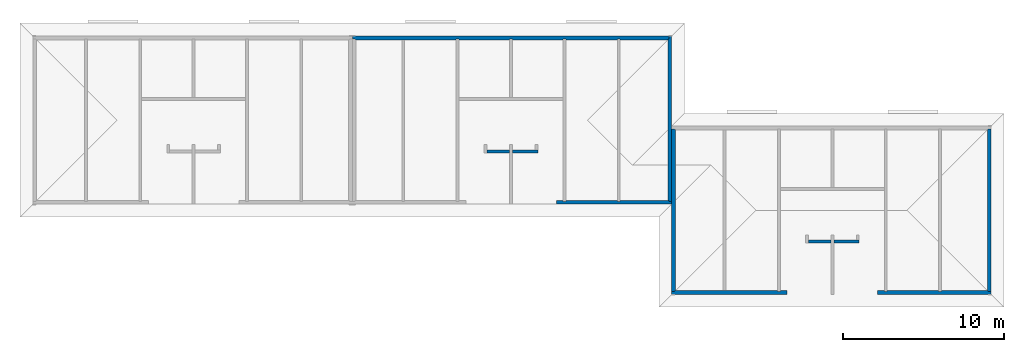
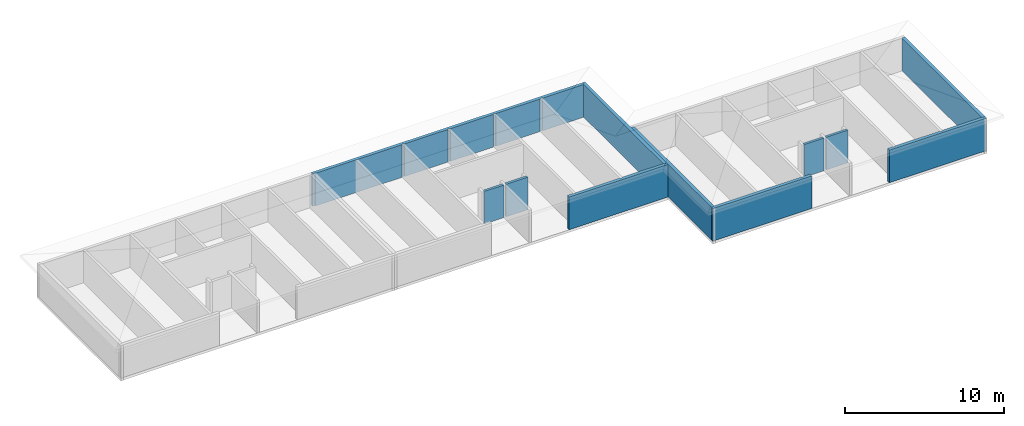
# One storey, part 9 of 10: 11 walls.
"""IFC2X3 building model written with IfcOpenShell, lengths in metres."""

import ifcopenshell
import ifcopenshell.guid

model = None  # the IFC model being written
_history = None  # IfcOwnerHistory: only IFC2X3 demands one
_inside = {}  # id of a spatial element -> (the spatial element, [elements in it])
_under = {}  # id of a project, library or spatial element -> (it, [spatial elements below it])
_declared = {}  # id of a project -> (the project, [libraries it declares])
_typed = {}  # id of a type object -> (the type object, [elements of that type])
_made_of = {}  # id of a material, layer set ... -> (it, [elements and type objects made of it])


def new_model(schema):
    """Start an empty IFC model of exactly this schema.

    Asked for "IFC4X3", IfcOpenShell would pick the latest addendum, in which some entities
    have other attributes; the version numbers below select the first issue.
    IFC2X3 requires an IfcOwnerHistory on every rooted entity: one is made here for all.
    """
    global model, _history
    if schema == "IFC4X3":
        model = ifcopenshell.file(schema_version=(4, 3, 0, 0))
    else:
        model = ifcopenshell.file(schema=schema)
    _inside.clear()
    _under.clear()
    _declared.clear()
    _typed.clear()
    _made_of.clear()
    _history = None
    if model.schema == "IFC2X3":
        org = make("IfcOrganization", Name="unknown")
        user = make(
            "IfcPersonAndOrganization",
            ThePerson=make("IfcPerson", FamilyName="unknown"),
            TheOrganization=org,
        )
        app = make(
            "IfcApplication",
            ApplicationDeveloper=org,
            Version="unknown",
            ApplicationFullName="unknown",
            ApplicationIdentifier="unknown",
        )
        _history = make(
            "IfcOwnerHistory",
            OwningUser=user,
            OwningApplication=app,
            ChangeAction="ADDED",
            CreationDate=0,
        )
    return model


def make(cls, **values):
    """One entity of the class cls with the attributes given. An attribute that is None is left unset."""
    return model.create_entity(
        cls, **{name: value for name, value in values.items() if value is not None}
    )


def rooted(cls, **values):
    """An entity with a GlobalId (a new one), such as an element, a storey or a relation."""
    return make(cls, GlobalId=ifcopenshell.guid.new(), OwnerHistory=_history, **values)


def si_unit(unit_type, name, prefix=None):
    """IfcSIUnit, for example si_unit("LENGTHUNIT", "METRE", prefix="MILLI")."""
    return make("IfcSIUnit", UnitType=unit_type, Prefix=prefix, Name=name)


def assignment(units):
    """IfcUnitAssignment: the units of a project."""
    return None if units is None else make("IfcUnitAssignment", Units=units)


def point(xyz):
    """IfcCartesianPoint."""
    return None if xyz is None else make("IfcCartesianPoint", Coordinates=xyz)


def direction(xyz):
    """IfcDirection."""
    return None if xyz is None else make("IfcDirection", DirectionRatios=xyz)


def frame(location, z_axis=None, x_axis=None):
    """IfcAxis2Placement3D, a coordinate frame: its origin and axes. An axis left out is left unset."""
    return make(
        "IfcAxis2Placement3D",
        Location=point(location),
        Axis=direction(z_axis),
        RefDirection=direction(x_axis),
    )


def origin():
    """The frame at (0, 0, 0) with its axes left unset."""
    return frame((0.0, 0.0, 0.0))


def place(relative_to, where):
    """IfcLocalPlacement: puts the frame where relative to a parent placement (None: the world)."""
    return make(
        "IfcLocalPlacement", PlacementRelTo=relative_to, RelativePlacement=where
    )


def context(
    kind, dimensions, precision=None, world=None, true_north=None, identifier=None
):
    """IfcGeometricRepresentationContext, for example the 3D "Model" context."""
    return make(
        "IfcGeometricRepresentationContext",
        ContextIdentifier=identifier,
        ContextType=kind,
        CoordinateSpaceDimension=dimensions,
        Precision=precision,
        WorldCoordinateSystem=world,
        TrueNorth=true_north,
    )


def project(units=None, contexts=None):
    """IfcProject with its units and contexts."""
    return rooted(
        "IfcProject",
        Name="project",
        RepresentationContexts=contexts,
        UnitsInContext=assignment(units),
    )


def spatial(cls, under=None, at=None, **own):
    """A site, building, storey or space (cls), placed at a placement, below another one or the project."""
    s = rooted(cls, ObjectPlacement=at, **own)
    if under is not None:
        _under.setdefault(under.id(), (under, []))[1].append(s)
    return s


def faces_of(points, faces, orient=None, outer=None):
    """IfcFace entities. A face is a list of loops; a loop is a list of indices into points, from 0.

    orient and outer hold one flag for each loop. By default every Orientation is true, the
    first loop of a face is its IfcFaceOuterBound and the others are IfcFaceBound.
    """
    made = []
    for i, loops in enumerate(faces):
        bounds = []
        for j, loop in enumerate(loops):
            is_outer = j == 0 if outer is None else outer[i][j]
            bounds.append(
                make(
                    "IfcFaceOuterBound" if is_outer else "IfcFaceBound",
                    Bound=make("IfcPolyLoop", Polygon=[points[k] for k in loop]),
                    Orientation=True if orient is None else orient[i][j],
                )
            )
        made.append(make("IfcFace", Bounds=bounds))
    return made


def faceted_brep(points, faces, orient=None, outer=None, voids=None):
    """IfcFacetedBrep: a solid bounded by flat faces; with voids (closed shells), ...WithVoids."""
    shared = [point(p) for p in points]
    hull = make("IfcClosedShell", CfsFaces=faces_of(shared, faces, orient, outer))
    if voids is None:
        return make("IfcFacetedBrep", Outer=hull)
    return make(
        "IfcFacetedBrepWithVoids",
        Outer=hull,
        Voids=[
            make(cls, CfsFaces=faces_of(shared, fs, o, b)) for cls, fs, o, b in voids
        ],
    )


def shape(context_of_items, identifier, shape_type, items):
    """IfcShapeRepresentation: the items that make up one representation, for example the "Body"."""
    return make(
        "IfcShapeRepresentation",
        ContextOfItems=context_of_items,
        RepresentationIdentifier=identifier,
        RepresentationType=shape_type,
        Items=items,
    )


def made_of(thing, what):
    """Note that an element or type object is made of a material, layer set ...; save() writes the relation."""
    if what is not None:
        _made_of.setdefault(what.id(), (what, []))[1].append(thing)
    return thing


def element(
    cls,
    number,
    at=None,
    inside=None,
    cuts=None,
    type_object=None,
    material=None,
    context=None,
    identifier="Body",
    shape_type=None,
    held_by="IfcProductDefinitionShape",
    body=None,
    shapes=None,
    **own,
):
    """One element of the class cls, such as IfcWall. Its Tag is "e" and its number.

    at: its placement. inside: the storey or other place that contains it. cuts: it is an
    opening in that element (IfcRelVoidsElement). A single representation is given by context,
    identifier, shape_type and body (its items); several are given by shapes. held_by: the class
    of the entity that holds the representations. save() writes the other relations.
    """
    e = rooted(cls, Tag="e%d" % number, ObjectPlacement=at, **own)
    if body is not None:
        shapes = [shape(context, identifier, shape_type, body)]
    if shapes is not None:
        e.Representation = make(held_by, Representations=shapes)
    if inside is not None:
        _inside.setdefault(inside.id(), (inside, []))[1].append(e)
    if cuts is not None:
        rooted(
            "IfcRelVoidsElement", RelatingBuildingElement=cuts, RelatedOpeningElement=e
        )
    if type_object is not None:
        _typed.setdefault(type_object.id(), (type_object, []))[1].append(e)
    return made_of(e, material)


def aggregate(whole, parts):
    """IfcRelAggregates: a whole, such as a stair, and the parts it consists of."""
    return rooted("IfcRelAggregates", RelatingObject=whole, RelatedObjects=parts)


def save(model, path):
    """Write the relations noted so far, then the file.

    IfcRelAggregates (storeys below a building ...), IfcRelContainedInSpatialStructure (elements
    in a storey), IfcRelDefinesByType, IfcRelAssociatesMaterial and IfcRelDeclares: one each for
    every whole, place, type object, material and project.
    """
    for whole, parts in _under.values():
        aggregate(whole, parts)
    for where, things in _inside.values():
        rooted(
            "IfcRelContainedInSpatialStructure",
            RelatedElements=things,
            RelatingStructure=where,
        )
    for kind, things in _typed.values():
        rooted("IfcRelDefinesByType", RelatedObjects=things, RelatingType=kind)
    for what, things in _made_of.values():
        rooted("IfcRelAssociatesMaterial", RelatedObjects=things, RelatingMaterial=what)
    for by, libraries in _declared.values():
        rooted("IfcRelDeclares", RelatingContext=by, RelatedDefinitions=libraries)
    model.write(path)


model = new_model("IFC2X3")

# Units and contexts
model_context = context("Model", 3, precision=1e-06, world=origin())
ifc_project = project(units=[si_unit("LENGTHUNIT", "METRE"), si_unit("PLANEANGLEUNIT", "RADIAN")], contexts=[model_context])

# Site, building, storey
site = spatial("IfcSite", under=ifc_project, CompositionType="ELEMENT")
building = spatial("IfcBuilding", under=site, CompositionType="ELEMENT")
storey = spatial("IfcBuildingStorey", under=building, Name="r+3", CompositionType="ELEMENT", Elevation=8.1)

# Walls
placement = place(None, origin())
wall_1_placement = place(placement, frame((39.69999999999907, 4.690077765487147, 8.1), z_axis=(0.0, 0.0, 1.0), x_axis=(0.0, -1.0, 0.0)))
element("IfcWall", 1, at=wall_1_placement, inside=storey, context=model_context, shape_type="Brep", body=[
    faceted_brep([(10.04000021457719, 0.23, 2.5), (10.04000021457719, 0.22, 2.5), (10.04000021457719, 0.22, 0.0), (10.04000021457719, 0.23, 0.0), (10.04000021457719, 0.22, 2.5), (10.05000021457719, 0.22, 2.5), (10.05000021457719, 0.22, 0.0), (10.04000021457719, 0.22, 0.0), (10.05000021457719, 0.22, 2.5), (10.05000021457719, 0.18, 2.5), (10.05000021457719, 0.18, 0.0), (10.05000021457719, 0.22, 0.0), (10.05000021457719, 0.18, 2.5), (10.090000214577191, 0.18, 2.5), (10.090000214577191, 0.18, 0.0), (10.05000021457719, 0.18, 0.0), (10.090000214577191, 0.18, 2.5), (10.090000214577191, 0.0, 2.5), (10.090000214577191, 0.0, 0.0), (10.090000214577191, 0.18, 0.0), (10.090000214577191, 0.0, 2.5), (0.0, 0.0, 2.5), (0.0, 0.0, 0.0), (10.090000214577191, 0.0, 0.0), (0.0, 0.0, 2.5), (0.0, 0.18, 2.5), (0.0, 0.18, 0.0), (0.0, 0.0, 0.0), (0.0, 0.18, 2.5), (0.04, 0.18, 2.5), (0.04, 0.18, 0.0), (0.0, 0.18, 0.0), (0.04, 0.18, 2.5), (0.04, 0.23, 2.5), (0.04, 0.23, 0.0), (0.04, 0.18, 0.0), (0.04, 0.23, 2.5), (10.04000021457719, 0.23, 2.5), (10.04000021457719, 0.23, 0.0), (0.04, 0.23, 0.0), (10.04000021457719, 0.23, 2.5), (0.04, 0.23, 2.5), (0.04, 0.18, 2.5), (0.0, 0.18, 2.5), (0.0, 0.0, 2.5), (10.090000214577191, 0.0, 2.5), (10.090000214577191, 0.18, 2.5), (10.05000021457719, 0.18, 2.5), (10.05000021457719, 0.22, 2.5), (10.04000021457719, 0.22, 2.5), (10.04000021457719, 0.23, 0.0), (10.04000021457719, 0.22, 0.0), (10.05000021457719, 0.22, 0.0), (10.05000021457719, 0.18, 0.0), (10.090000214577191, 0.18, 0.0), (10.090000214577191, 0.0, 0.0), (0.0, 0.0, 0.0), (0.0, 0.18, 0.0), (0.04, 0.18, 0.0), (0.04, 0.23, 0.0)], [[[0, 1, 2, 3]], [[4, 5, 6, 7]], [[8, 9, 10, 11]], [[12, 13, 14, 15]], [[16, 17, 18, 19]], [[20, 21, 22, 23]], [[24, 25, 26, 27]], [[28, 29, 30, 31]], [[32, 33, 34, 35]], [[36, 37, 38, 39]], [[40, 41, 42, 43, 44, 45, 46, 47, 48, 49]], [[50, 51, 52, 53, 54, 55, 56, 57, 58, 59]]]),
])
wall_2_placement = place(placement, frame((39.51999999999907, 10.470077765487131, 8.1), z_axis=(0.0, 0.0, 1.0), x_axis=(-1.0, 0.0, 0.0)))
element("IfcWall", 2, at=wall_2_placement, inside=storey, context=model_context, shape_type="Brep", body=[
    faceted_brep([(3.019999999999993, 0.18, 2.5), (3.199999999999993, 0.18, 2.5), (3.199999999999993, 0.18, 0.0), (3.019999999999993, 0.18, 0.0), (3.199999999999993, 0.18, 2.5), (3.199999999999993, 0.23, 2.5), (3.199999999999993, 0.23, 0.0), (3.199999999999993, 0.18, 0.0), (3.199999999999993, 0.23, 2.5), (6.4, 0.230000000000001, 2.5), (6.4, 0.230000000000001, 0.0), (3.199999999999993, 0.23, 0.0), (6.4, 0.230000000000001, 2.5), (6.4, 0.180000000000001, 2.5), (6.4, 0.180000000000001, 0.0), (6.4, 0.230000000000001, 0.0), (6.4, 0.180000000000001, 2.5), (6.58, 0.180000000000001, 2.5), (6.58, 0.180000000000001, 0.0), (6.4, 0.180000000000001, 0.0), (6.58, 0.180000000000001, 2.5), (6.58, 0.230000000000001, 2.5), (6.58, 0.230000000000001, 0.0), (6.58, 0.180000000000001, 0.0), (6.58, 0.230000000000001, 2.5), (9.714999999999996, 0.230000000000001, 2.5), (9.714999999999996, 0.230000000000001, 0.0), (6.58, 0.230000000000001, 0.0), (9.714999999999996, 0.230000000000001, 2.5), (9.714999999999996, 0.180000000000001, 2.5), (9.714999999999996, 0.180000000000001, 0.0), (9.714999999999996, 0.230000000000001, 0.0), (9.714999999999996, 0.180000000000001, 2.5), (9.894999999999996, 0.180000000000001, 2.5), (9.894999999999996, 0.180000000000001, 0.0), (9.714999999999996, 0.180000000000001, 0.0), (9.894999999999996, 0.180000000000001, 2.5), (9.894999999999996, 0.230000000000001, 2.5), (9.894999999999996, 0.230000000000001, 0.0), (9.894999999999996, 0.180000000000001, 0.0), (9.894999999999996, 0.230000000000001, 2.5), (13.029999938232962, 0.230000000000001, 2.5), (13.029999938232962, 0.230000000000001, 0.0), (9.894999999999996, 0.230000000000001, 0.0), (13.029999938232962, 0.230000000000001, 2.5), (13.029999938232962, 0.180000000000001, 2.5), (13.029999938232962, 0.180000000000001, 0.0), (13.029999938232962, 0.230000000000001, 0.0), (13.029999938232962, 0.180000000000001, 2.5), (13.209999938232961, 0.179999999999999, 2.5), (13.209999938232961, 0.179999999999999, 0.0), (13.029999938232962, 0.180000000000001, 0.0), (13.209999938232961, 0.179999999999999, 2.5), (13.209999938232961, 0.230000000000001, 2.5), (13.209999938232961, 0.230000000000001, 0.0), (13.209999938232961, 0.179999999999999, 0.0), (13.209999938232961, 0.230000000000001, 2.5), (19.44999999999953, 0.23, 2.5), (19.44999999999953, 0.23, 0.0), (13.209999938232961, 0.230000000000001, 0.0), (19.44999999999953, 0.23, 2.5), (19.44999999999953, 0.22, 2.5), (19.44999999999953, 0.22, 0.0), (19.44999999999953, 0.23, 0.0), (19.44999999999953, 0.22, 2.5), (19.48999999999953, 0.22, 2.5), (19.48999999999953, 0.22, 0.0), (19.44999999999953, 0.22, 0.0), (19.48999999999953, 0.22, 2.5), (19.48999999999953, 0.18, 2.5), (19.48999999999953, 0.18, 0.0), (19.48999999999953, 0.22, 0.0), (19.48999999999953, 0.18, 2.5), (19.669999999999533, 0.18, 2.5), (19.669999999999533, 0.18, 0.0), (19.48999999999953, 0.18, 0.0), (19.669999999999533, 0.18, 2.5), (19.669999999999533, 0.0, 2.5), (19.669999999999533, 0.0, 0.0), (19.669999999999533, 0.18, 0.0), (19.669999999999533, 0.0, 2.5), (0.0, 0.0, 2.5), (0.0, 0.0, 0.0), (19.669999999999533, 0.0, 0.0), (0.0, 0.0, 2.5), (0.0, 0.18, 2.5), (0.0, 0.18, 0.0), (0.0, 0.0, 0.0), (0.0, 0.18, 2.5), (0.04, 0.18, 2.5), (0.04, 0.18, 0.0), (0.0, 0.18, 0.0), (0.04, 0.18, 2.5), (0.04, 0.22, 2.5), (0.04, 0.22, 0.0), (0.04, 0.18, 0.0), (0.04, 0.22, 2.5), (0.05, 0.22, 2.5), (0.05, 0.22, 0.0), (0.04, 0.22, 0.0), (0.05, 0.22, 2.5), (0.05, 0.23, 2.5), (0.05, 0.23, 0.0), (0.05, 0.22, 0.0), (0.05, 0.23, 2.5), (3.019999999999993, 0.23, 2.5), (3.019999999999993, 0.23, 0.0), (0.05, 0.23, 0.0), (3.019999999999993, 0.23, 2.5), (3.019999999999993, 0.18, 2.5), (3.019999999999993, 0.18, 0.0), (3.019999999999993, 0.23, 0.0), (3.019999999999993, 0.18, 2.5), (3.019999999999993, 0.23, 2.5), (0.05, 0.23, 2.5), (0.05, 0.22, 2.5), (0.04, 0.22, 2.5), (0.04, 0.18, 2.5), (0.0, 0.18, 2.5), (0.0, 0.0, 2.5), (19.669999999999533, 0.0, 2.5), (19.669999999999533, 0.18, 2.5), (19.48999999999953, 0.18, 2.5), (19.48999999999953, 0.22, 2.5), (19.44999999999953, 0.22, 2.5), (19.44999999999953, 0.23, 2.5), (13.209999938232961, 0.230000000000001, 2.5), (13.209999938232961, 0.179999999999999, 2.5), (13.029999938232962, 0.180000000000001, 2.5), (13.029999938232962, 0.230000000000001, 2.5), (9.894999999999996, 0.230000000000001, 2.5), (9.894999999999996, 0.180000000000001, 2.5), (9.714999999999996, 0.180000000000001, 2.5), (9.714999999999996, 0.230000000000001, 2.5), (6.58, 0.230000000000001, 2.5), (6.58, 0.180000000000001, 2.5), (6.4, 0.180000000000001, 2.5), (6.4, 0.230000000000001, 2.5), (3.199999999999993, 0.23, 2.5), (3.199999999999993, 0.18, 2.5), (3.019999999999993, 0.18, 0.0), (3.199999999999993, 0.18, 0.0), (3.199999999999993, 0.23, 0.0), (6.4, 0.230000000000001, 0.0), (6.4, 0.180000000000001, 0.0), (6.58, 0.180000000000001, 0.0), (6.58, 0.230000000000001, 0.0), (9.714999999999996, 0.230000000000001, 0.0), (9.714999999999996, 0.180000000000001, 0.0), (9.894999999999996, 0.180000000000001, 0.0), (9.894999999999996, 0.230000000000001, 0.0), (13.029999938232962, 0.230000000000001, 0.0), (13.029999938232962, 0.180000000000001, 0.0), (13.209999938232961, 0.179999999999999, 0.0), (13.209999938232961, 0.230000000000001, 0.0), (19.44999999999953, 0.23, 0.0), (19.44999999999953, 0.22, 0.0), (19.48999999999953, 0.22, 0.0), (19.48999999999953, 0.18, 0.0), (19.669999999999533, 0.18, 0.0), (19.669999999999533, 0.0, 0.0), (0.0, 0.0, 0.0), (0.0, 0.18, 0.0), (0.04, 0.18, 0.0), (0.04, 0.22, 0.0), (0.05, 0.22, 0.0), (0.05, 0.23, 0.0), (3.019999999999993, 0.23, 0.0)], [[[0, 1, 2, 3]], [[4, 5, 6, 7]], [[8, 9, 10, 11]], [[12, 13, 14, 15]], [[16, 17, 18, 19]], [[20, 21, 22, 23]], [[24, 25, 26, 27]], [[28, 29, 30, 31]], [[32, 33, 34, 35]], [[36, 37, 38, 39]], [[40, 41, 42, 43]], [[44, 45, 46, 47]], [[48, 49, 50, 51]], [[52, 53, 54, 55]], [[56, 57, 58, 59]], [[60, 61, 62, 63]], [[64, 65, 66, 67]], [[68, 69, 70, 71]], [[72, 73, 74, 75]], [[76, 77, 78, 79]], [[80, 81, 82, 83]], [[84, 85, 86, 87]], [[88, 89, 90, 91]], [[92, 93, 94, 95]], [[96, 97, 98, 99]], [[100, 101, 102, 103]], [[104, 105, 106, 107]], [[108, 109, 110, 111]], [[112, 113, 114, 115, 116, 117, 118, 119, 120, 121, 122, 123, 124, 125, 126, 127, 128, 129, 130, 131, 132, 133, 134, 135, 136, 137, 138, 139]], [[140, 141, 142, 143, 144, 145, 146, 147, 148, 149, 150, 151, 152, 153, 154, 155, 156, 157, 158, 159, 160, 161, 162, 163, 164, 165, 166, 167]]]),
])
wall_3_placement = place(placement, frame((51.3499994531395, -2.199922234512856, 8.1), z_axis=(0.0, 0.0, 1.0), x_axis=(-1.0, 0.0, 0.0)))
element("IfcWall", 3, at=wall_3_placement, inside=storey, context=model_context, shape_type="Brep", body=[
    faceted_brep([(1.574999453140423, 0.18, 2.5), (1.574999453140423, 0.0, 2.5), (1.574999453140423, 0.0, 0.0), (1.574999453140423, 0.18, 0.0), (1.574999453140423, 0.0, 2.5), (0.0, 0.0, 2.5), (0.0, 0.0, 0.0), (1.574999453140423, 0.0, 0.0), (0.0, 0.0, 2.5), (0.0, 0.18, 2.5), (0.0, 0.18, 0.0), (0.0, 0.0, 0.0), (0.0, 0.18, 2.5), (1.574999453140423, 0.18, 2.5), (1.574999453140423, 0.18, 0.0), (0.0, 0.18, 0.0), (1.574999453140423, 0.18, 2.5), (0.0, 0.18, 2.5), (0.0, 0.0, 2.5), (1.574999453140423, 0.0, 2.5), (1.574999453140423, 0.18, 0.0), (1.574999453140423, 0.0, 0.0), (0.0, 0.0, 0.0), (0.0, 0.18, 0.0)], [[[0, 1, 2, 3]], [[4, 5, 6, 7]], [[8, 9, 10, 11]], [[12, 13, 14, 15]], [[16, 17, 18, 19]], [[20, 21, 22, 23]]]),
])
wall_4_placement = place(placement, frame((39.69999999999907, -5.579922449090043, 8.1), z_axis=(0.0, 0.0, 1.0), x_axis=(1.0, 0.0, 0.0)))
element("IfcWall", 4, at=wall_4_placement, inside=storey, context=model_context, shape_type="Brep", body=[
    faceted_brep([(7.175000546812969, 0.0, 2.5), (0.0, 0.0, 2.5), (0.0, 0.0, 0.0), (7.175000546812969, 0.0, 0.0), (0.0, 0.0, 2.5), (0.0, 0.18, 2.5), (0.0, 0.18, 0.0), (0.0, 0.0, 0.0), (0.0, 0.18, 2.5), (0.18, 0.18, 2.5), (0.18, 0.18, 0.0), (0.0, 0.18, 0.0), (0.18, 0.18, 2.5), (0.18, 0.22, 2.5), (0.18, 0.22, 0.0), (0.18, 0.18, 0.0), (0.18, 0.22, 2.5), (0.22, 0.22, 2.5), (0.22, 0.22, 0.0), (0.18, 0.22, 0.0), (0.22, 0.22, 2.5), (0.22, 0.23, 2.5), (0.22, 0.23, 0.0), (0.22, 0.22, 0.0), (0.22, 0.23, 2.5), (6.580000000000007, 0.23, 2.5), (6.580000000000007, 0.23, 0.0), (0.22, 0.23, 0.0), (6.580000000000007, 0.23, 2.5), (6.580000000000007, 0.18, 2.5), (6.580000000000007, 0.18, 0.0), (6.580000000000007, 0.23, 0.0), (6.580000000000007, 0.18, 2.5), (6.760000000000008, 0.18, 2.5), (6.760000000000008, 0.18, 0.0), (6.580000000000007, 0.18, 0.0), (6.760000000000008, 0.18, 2.5), (6.760000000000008, 0.23, 2.5), (6.760000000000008, 0.23, 0.0), (6.760000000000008, 0.18, 0.0), (6.760000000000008, 0.23, 2.5), (7.175000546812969, 0.23, 2.5), (7.175000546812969, 0.23, 0.0), (6.760000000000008, 0.23, 0.0), (7.175000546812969, 0.23, 2.5), (7.175000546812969, 0.0, 2.5), (7.175000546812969, 0.0, 0.0), (7.175000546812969, 0.23, 0.0), (7.175000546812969, 0.0, 2.5), (7.175000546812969, 0.23, 2.5), (6.760000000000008, 0.23, 2.5), (6.760000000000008, 0.18, 2.5), (6.580000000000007, 0.18, 2.5), (6.580000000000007, 0.23, 2.5), (0.22, 0.23, 2.5), (0.22, 0.22, 2.5), (0.18, 0.22, 2.5), (0.18, 0.18, 2.5), (0.0, 0.18, 2.5), (0.0, 0.0, 2.5), (7.175000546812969, 0.0, 0.0), (0.0, 0.0, 0.0), (0.0, 0.18, 0.0), (0.18, 0.18, 0.0), (0.18, 0.22, 0.0), (0.22, 0.22, 0.0), (0.22, 0.23, 0.0), (6.580000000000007, 0.23, 0.0), (6.580000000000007, 0.18, 0.0), (6.760000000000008, 0.18, 0.0), (6.760000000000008, 0.23, 0.0), (7.175000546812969, 0.23, 0.0)], [[[0, 1, 2, 3]], [[4, 5, 6, 7]], [[8, 9, 10, 11]], [[12, 13, 14, 15]], [[16, 17, 18, 19]], [[20, 21, 22, 23]], [[24, 25, 26, 27]], [[28, 29, 30, 31]], [[32, 33, 34, 35]], [[36, 37, 38, 39]], [[40, 41, 42, 43]], [[44, 45, 46, 47]], [[48, 49, 50, 51, 52, 53, 54, 55, 56, 57, 58, 59]], [[60, 61, 62, 63, 64, 65, 66, 67, 68, 69, 70, 71]]]),
])
wall_5_placement = place(placement, frame((31.37999951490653, 3.400077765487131, 8.1), z_axis=(0.0, 0.0, 1.0), x_axis=(-1.0, 0.0, 0.0)))
element("IfcWall", 5, at=wall_5_placement, inside=storey, context=model_context, shape_type="Brep", body=[
    faceted_brep([(3.150000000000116, 0.18, 2.5), (3.150000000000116, 0.0, 2.5), (3.150000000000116, 0.0, 0.0), (3.150000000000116, 0.18, 0.0), (3.150000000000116, 0.0, 2.5), (1.754999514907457, 0.0, 2.5), (1.754999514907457, 0.0, 0.0), (3.150000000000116, 0.0, 0.0), (1.754999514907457, 0.0, 2.5), (1.754999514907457, 0.18, 2.5), (1.754999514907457, 0.18, 0.0), (1.754999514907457, 0.0, 0.0), (1.754999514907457, 0.18, 2.5), (3.150000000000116, 0.18, 2.5), (3.150000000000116, 0.18, 0.0), (1.754999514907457, 0.18, 0.0), (3.150000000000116, 0.18, 2.5), (1.754999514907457, 0.18, 2.5), (1.754999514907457, 0.0, 2.5), (3.150000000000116, 0.0, 2.5), (3.150000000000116, 0.18, 0.0), (3.150000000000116, 0.0, 0.0), (1.754999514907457, 0.0, 0.0), (1.754999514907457, 0.18, 0.0)], [[[0, 1, 2, 3]], [[4, 5, 6, 7]], [[8, 9, 10, 11]], [[12, 13, 14, 15]], [[16, 17, 18, 19]], [[20, 21, 22, 23]]]),
])
wall_6_placement = place(placement, frame((32.525000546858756, 0.020077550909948, 8.099999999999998), z_axis=(0.0, 0.0, 1.0), x_axis=(1.0, 0.0, 0.0)))
element("IfcWall", 6, at=wall_6_placement, inside=storey, context=model_context, shape_type="Brep", body=[
    faceted_brep([(0.41499945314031, 0.23, 2.500000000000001), (0.41499945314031, 0.18, 2.500000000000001), (0.41499945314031, 0.18, 0.0), (0.41499945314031, 0.23, 0.0), (0.41499945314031, 0.18, 2.500000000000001), (0.59499945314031, 0.18, 2.500000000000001), (0.59499945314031, 0.18, 0.0), (0.41499945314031, 0.18, 0.0), (0.59499945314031, 0.18, 2.500000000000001), (0.59499945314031, 0.23, 2.500000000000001), (0.59499945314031, 0.23, 0.0), (0.59499945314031, 0.18, 0.0), (0.59499945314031, 0.23, 2.500000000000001), (3.794999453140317, 0.23, 2.500000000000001), (3.794999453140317, 0.23, 0.0), (0.59499945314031, 0.23, 0.0), (3.794999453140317, 0.23, 2.500000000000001), (3.794999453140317, 0.18, 2.500000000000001), (3.794999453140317, 0.18, 0.0), (3.794999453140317, 0.23, 0.0), (3.794999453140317, 0.18, 2.500000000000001), (3.974999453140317, 0.18, 2.500000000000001), (3.974999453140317, 0.18, 0.0), (3.794999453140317, 0.18, 0.0), (3.974999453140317, 0.18, 2.500000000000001), (3.974999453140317, 0.23, 2.500000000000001), (3.974999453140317, 0.23, 0.0), (3.974999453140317, 0.18, 0.0), (3.974999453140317, 0.23, 2.500000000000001), (6.95499945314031, 0.23, 2.500000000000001), (6.95499945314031, 0.23, 0.0), (3.974999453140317, 0.23, 0.0), (6.95499945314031, 0.23, 2.500000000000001), (6.95499945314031, 0.22, 2.500000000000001), (6.95499945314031, 0.22, 0.0), (6.95499945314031, 0.23, 0.0), (6.95499945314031, 0.22, 2.500000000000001), (6.99499945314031, 0.22, 2.500000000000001), (6.99499945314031, 0.22, 0.0), (6.95499945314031, 0.22, 0.0), (6.99499945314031, 0.22, 2.500000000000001), (6.99499945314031, 0.18, 2.500000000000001), (6.99499945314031, 0.18, 0.0), (6.99499945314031, 0.22, 0.0), (6.99499945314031, 0.18, 2.500000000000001), (7.17499945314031, 0.18, 2.500000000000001), (7.17499945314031, 0.18, 0.0), (6.99499945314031, 0.18, 0.0), (7.17499945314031, 0.18, 2.500000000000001), (7.17499945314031, 0.0, 2.500000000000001), (7.17499945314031, 0.0, 0.0), (7.17499945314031, 0.18, 0.0), (7.17499945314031, 0.0, 2.500000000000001), (0.0, 0.0, 2.500000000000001), (0.0, 0.0, 0.0), (7.17499945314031, 0.0, 0.0), (0.0, 0.0, 2.500000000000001), (0.0, 0.23, 2.500000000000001), (0.0, 0.23, 0.0), (0.0, 0.0, 0.0), (0.0, 0.23, 2.500000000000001), (0.41499945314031, 0.23, 2.500000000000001), (0.41499945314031, 0.23, 0.0), (0.0, 0.23, 0.0), (0.41499945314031, 0.23, 2.500000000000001), (0.0, 0.23, 2.500000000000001), (0.0, 0.0, 2.500000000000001), (7.17499945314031, 0.0, 2.500000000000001), (7.17499945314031, 0.18, 2.500000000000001), (6.99499945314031, 0.18, 2.500000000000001), (6.99499945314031, 0.22, 2.500000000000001), (6.95499945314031, 0.22, 2.500000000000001), (6.95499945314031, 0.23, 2.500000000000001), (3.974999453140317, 0.23, 2.500000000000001), (3.974999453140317, 0.18, 2.500000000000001), (3.794999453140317, 0.18, 2.500000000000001), (3.794999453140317, 0.23, 2.500000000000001), (0.59499945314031, 0.23, 2.500000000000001), (0.59499945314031, 0.18, 2.500000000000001), (0.41499945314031, 0.18, 2.500000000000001), (0.41499945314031, 0.23, 0.0), (0.41499945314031, 0.18, 0.0), (0.59499945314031, 0.18, 0.0), (0.59499945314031, 0.23, 0.0), (3.794999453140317, 0.23, 0.0), (3.794999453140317, 0.18, 0.0), (3.974999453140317, 0.18, 0.0), (3.974999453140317, 0.23, 0.0), (6.95499945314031, 0.23, 0.0), (6.95499945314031, 0.22, 0.0), (6.99499945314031, 0.22, 0.0), (6.99499945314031, 0.18, 0.0), (7.17499945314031, 0.18, 0.0), (7.17499945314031, 0.0, 0.0), (0.0, 0.0, 0.0), (0.0, 0.23, 0.0)], [[[0, 1, 2, 3]], [[4, 5, 6, 7]], [[8, 9, 10, 11]], [[12, 13, 14, 15]], [[16, 17, 18, 19]], [[20, 21, 22, 23]], [[24, 25, 26, 27]], [[28, 29, 30, 31]], [[32, 33, 34, 35]], [[36, 37, 38, 39]], [[40, 41, 42, 43]], [[44, 45, 46, 47]], [[48, 49, 50, 51]], [[52, 53, 54, 55]], [[56, 57, 58, 59]], [[60, 61, 62, 63]], [[64, 65, 66, 67, 68, 69, 70, 71, 72, 73, 74, 75, 76, 77, 78, 79]], [[80, 81, 82, 83, 84, 85, 86, 87, 88, 89, 90, 91, 92, 93, 94, 95]]]),
])
wall_7_placement = place(placement, frame((59.54999999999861, -5.399837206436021, 8.1), z_axis=(0.0, 0.0, 1.0), x_axis=(0.0, 1.0, 0.0)))
element("IfcWall", 7, at=wall_7_placement, inside=storey, context=model_context, shape_type="Brep", body=[
    faceted_brep([(0.04, 0.18, 2.5), (0.04, 0.22, 2.5), (0.04, 0.22, 0.0), (0.04, 0.18, 0.0), (0.04, 0.22, 2.5), (0.05, 0.22, 2.5), (0.05, 0.22, 0.0), (0.04, 0.22, 0.0), (0.05, 0.22, 2.5), (0.05, 0.23, 2.5), (0.05, 0.23, 0.0), (0.05, 0.22, 0.0), (0.05, 0.23, 2.5), (10.03991497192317, 0.23, 2.5), (10.03991497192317, 0.23, 0.0), (0.05, 0.23, 0.0), (10.03991497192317, 0.23, 2.5), (10.03991497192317, 0.22, 2.5), (10.03991497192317, 0.22, 0.0), (10.03991497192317, 0.23, 0.0), (10.03991497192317, 0.22, 2.5), (10.04991497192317, 0.22, 2.5), (10.04991497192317, 0.22, 0.0), (10.03991497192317, 0.22, 0.0), (10.04991497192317, 0.22, 2.5), (10.04991497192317, 0.18, 2.5), (10.04991497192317, 0.18, 0.0), (10.04991497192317, 0.22, 0.0), (10.04991497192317, 0.18, 2.5), (10.08991497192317, 0.18, 2.5), (10.08991497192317, 0.18, 0.0), (10.04991497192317, 0.18, 0.0), (10.08991497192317, 0.18, 2.5), (10.08991497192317, 0.0, 2.5), (10.08991497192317, 0.0, 0.0), (10.08991497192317, 0.18, 0.0), (10.08991497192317, 0.0, 2.5), (0.0, 0.0, 2.5), (0.0, 0.0, 0.0), (10.08991497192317, 0.0, 0.0), (0.0, 0.0, 2.5), (0.0, 0.18, 2.5), (0.0, 0.18, 0.0), (0.0, 0.0, 0.0), (0.0, 0.18, 2.5), (0.04, 0.18, 2.5), (0.04, 0.18, 0.0), (0.0, 0.18, 0.0), (0.04, 0.18, 2.5), (0.0, 0.18, 2.5), (0.0, 0.0, 2.5), (10.08991497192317, 0.0, 2.5), (10.08991497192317, 0.18, 2.5), (10.04991497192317, 0.18, 2.5), (10.04991497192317, 0.22, 2.5), (10.03991497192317, 0.22, 2.5), (10.03991497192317, 0.23, 2.5), (0.05, 0.23, 2.5), (0.05, 0.22, 2.5), (0.04, 0.22, 2.5), (0.04, 0.18, 0.0), (0.04, 0.22, 0.0), (0.05, 0.22, 0.0), (0.05, 0.23, 0.0), (10.03991497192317, 0.23, 0.0), (10.03991497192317, 0.22, 0.0), (10.04991497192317, 0.22, 0.0), (10.04991497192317, 0.18, 0.0), (10.08991497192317, 0.18, 0.0), (10.08991497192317, 0.0, 0.0), (0.0, 0.0, 0.0), (0.0, 0.18, 0.0)], [[[0, 1, 2, 3]], [[4, 5, 6, 7]], [[8, 9, 10, 11]], [[12, 13, 14, 15]], [[16, 17, 18, 19]], [[20, 21, 22, 23]], [[24, 25, 26, 27]], [[28, 29, 30, 31]], [[32, 33, 34, 35]], [[36, 37, 38, 39]], [[40, 41, 42, 43]], [[44, 45, 46, 47]], [[48, 49, 50, 51, 52, 53, 54, 55, 56, 57, 58, 59]], [[60, 61, 62, 63, 64, 65, 66, 67, 68, 69, 70, 71]]]),
])
wall_8_placement = place(placement, frame((31.37999951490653, 3.400077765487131, 8.1), z_axis=(0.0, 0.0, 1.0), x_axis=(-1.0, 0.0, 0.0)))
element("IfcWall", 8, at=wall_8_placement, inside=storey, context=model_context, shape_type="Brep", body=[
    faceted_brep([(1.574999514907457, 0.18, 2.5), (1.574999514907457, 0.0, 2.5), (1.574999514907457, 0.0, 0.0), (1.574999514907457, 0.18, 0.0), (1.574999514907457, 0.0, 2.5), (0.0, 0.0, 2.5), (0.0, 0.0, 0.0), (1.574999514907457, 0.0, 0.0), (0.0, 0.0, 2.5), (0.0, 0.18, 2.5), (0.0, 0.18, 0.0), (0.0, 0.0, 0.0), (0.0, 0.18, 2.5), (1.574999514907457, 0.18, 2.5), (1.574999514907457, 0.18, 0.0), (0.0, 0.18, 0.0), (1.574999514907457, 0.18, 2.5), (0.0, 0.18, 2.5), (0.0, 0.0, 2.5), (1.574999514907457, 0.0, 2.5), (1.574999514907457, 0.18, 0.0), (1.574999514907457, 0.0, 0.0), (0.0, 0.0, 0.0), (0.0, 0.18, 0.0)], [[[0, 1, 2, 3]], [[4, 5, 6, 7]], [[8, 9, 10, 11]], [[12, 13, 14, 15]], [[16, 17, 18, 19]], [[20, 21, 22, 23]]]),
])
wall_9_placement = place(placement, frame((51.3499994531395, -2.199922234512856, 8.1), z_axis=(0.0, 0.0, 1.0), x_axis=(-1.0, 0.0, 0.0)))
element("IfcWall", 9, at=wall_9_placement, inside=storey, context=model_context, shape_type="Brep", body=[
    faceted_brep([(3.150000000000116, 0.18, 2.5), (3.150000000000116, 0.0, 2.5), (3.150000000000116, 0.0, 0.0), (3.150000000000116, 0.18, 0.0), (3.150000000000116, 0.0, 2.5), (1.754999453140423, 0.0, 2.5), (1.754999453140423, 0.0, 0.0), (3.150000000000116, 0.0, 0.0), (1.754999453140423, 0.0, 2.5), (1.754999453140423, 0.18, 2.5), (1.754999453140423, 0.18, 0.0), (1.754999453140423, 0.0, 0.0), (1.754999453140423, 0.18, 2.5), (3.150000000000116, 0.18, 2.5), (3.150000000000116, 0.18, 0.0), (1.754999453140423, 0.18, 0.0), (3.150000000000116, 0.18, 2.5), (1.754999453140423, 0.18, 2.5), (1.754999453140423, 0.0, 2.5), (3.150000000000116, 0.0, 2.5), (3.150000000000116, 0.18, 0.0), (3.150000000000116, 0.0, 0.0), (1.754999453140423, 0.0, 0.0), (1.754999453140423, 0.18, 0.0)], [[[0, 1, 2, 3]], [[4, 5, 6, 7]], [[8, 9, 10, 11]], [[12, 13, 14, 15]], [[16, 17, 18, 19]], [[20, 21, 22, 23]]]),
])
wall_10_placement = place(placement, frame((39.69999999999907, 0.200077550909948, 8.099999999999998), z_axis=(0.0, 0.0, 1.0), x_axis=(0.0, 1.0, 0.0)))
element("IfcWall", 10, at=wall_10_placement, inside=storey, context=model_context, shape_type="Brep", body=[
    faceted_brep([(0.04, 0.18, 2.500000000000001), (0.04, 0.22, 2.500000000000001), (0.04, 0.22, 0.0), (0.04, 0.18, 0.0), (0.04, 0.22, 2.500000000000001), (0.05, 0.22, 2.500000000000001), (0.05, 0.22, 0.0), (0.04, 0.22, 0.0), (0.05, 0.22, 2.500000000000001), (0.05, 0.23, 2.500000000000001), (0.05, 0.23, 0.0), (0.05, 0.22, 0.0), (0.05, 0.23, 2.500000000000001), (10.05000021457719, 0.23, 2.500000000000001), (10.05000021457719, 0.23, 0.0), (0.05, 0.23, 0.0), (10.05000021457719, 0.23, 2.500000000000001), (10.05000021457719, 0.22, 2.500000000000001), (10.05000021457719, 0.22, 0.0), (10.05000021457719, 0.23, 0.0), (10.05000021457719, 0.22, 2.500000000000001), (10.090000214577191, 0.22, 2.500000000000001), (10.090000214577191, 0.22, 0.0), (10.05000021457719, 0.22, 0.0), (10.090000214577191, 0.22, 2.500000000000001), (10.090000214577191, 0.18, 2.500000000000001), (10.090000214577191, 0.18, 0.0), (10.090000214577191, 0.22, 0.0), (10.090000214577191, 0.18, 2.500000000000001), (10.270000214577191, 0.18, 2.500000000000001), (10.270000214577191, 0.18, 0.0), (10.090000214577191, 0.18, 0.0), (10.270000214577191, 0.18, 2.500000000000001), (10.270000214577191, 0.0, 2.500000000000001), (10.270000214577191, 0.0, 0.0), (10.270000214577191, 0.18, 0.0), (10.270000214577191, 0.0, 2.500000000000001), (0.0, 0.0, 2.500000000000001), (0.0, 0.0, 0.0), (10.270000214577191, 0.0, 0.0), (0.0, 0.0, 2.500000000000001), (0.0, 0.18, 2.500000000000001), (0.0, 0.18, 0.0), (0.0, 0.0, 0.0), (0.0, 0.18, 2.500000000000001), (0.04, 0.18, 2.500000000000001), (0.04, 0.18, 0.0), (0.0, 0.18, 0.0), (0.04, 0.18, 2.500000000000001), (0.0, 0.18, 2.500000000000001), (0.0, 0.0, 2.500000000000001), (10.270000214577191, 0.0, 2.500000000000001), (10.270000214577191, 0.18, 2.500000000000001), (10.090000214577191, 0.18, 2.500000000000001), (10.090000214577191, 0.22, 2.500000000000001), (10.05000021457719, 0.22, 2.500000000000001), (10.05000021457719, 0.23, 2.500000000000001), (0.05, 0.23, 2.500000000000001), (0.05, 0.22, 2.500000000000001), (0.04, 0.22, 2.500000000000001), (0.04, 0.18, 0.0), (0.04, 0.22, 0.0), (0.05, 0.22, 0.0), (0.05, 0.23, 0.0), (10.05000021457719, 0.23, 0.0), (10.05000021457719, 0.22, 0.0), (10.090000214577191, 0.22, 0.0), (10.090000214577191, 0.18, 0.0), (10.270000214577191, 0.18, 0.0), (10.270000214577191, 0.0, 0.0), (0.0, 0.0, 0.0), (0.0, 0.18, 0.0)], [[[0, 1, 2, 3]], [[4, 5, 6, 7]], [[8, 9, 10, 11]], [[12, 13, 14, 15]], [[16, 17, 18, 19]], [[20, 21, 22, 23]], [[24, 25, 26, 27]], [[28, 29, 30, 31]], [[32, 33, 34, 35]], [[36, 37, 38, 39]], [[40, 41, 42, 43]], [[44, 45, 46, 47]], [[48, 49, 50, 51, 52, 53, 54, 55, 56, 57, 58, 59]], [[60, 61, 62, 63, 64, 65, 66, 67, 68, 69, 70, 71]]]),
])
wall_11_placement = place(placement, frame((52.49499999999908, -5.579837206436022, 8.1), z_axis=(0.0, 0.0, 1.0), x_axis=(1.0, 0.0, 0.0)))
element("IfcWall", 11, at=wall_11_placement, inside=storey, context=model_context, shape_type="Brep", body=[
    faceted_brep([(6.834999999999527, 0.23, 2.5), (6.834999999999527, 0.22, 2.5), (6.834999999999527, 0.22, 0.0), (6.834999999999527, 0.23, 0.0), (6.834999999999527, 0.22, 2.5), (6.874999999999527, 0.22, 2.5), (6.874999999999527, 0.22, 0.0), (6.834999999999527, 0.22, 0.0), (6.874999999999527, 0.22, 2.5), (6.874999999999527, 0.18, 2.5), (6.874999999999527, 0.18, 0.0), (6.874999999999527, 0.22, 0.0), (6.874999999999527, 0.18, 2.5), (7.054999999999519, 0.18, 2.5), (7.054999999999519, 0.18, 0.0), (6.874999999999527, 0.18, 0.0), (7.054999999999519, 0.18, 2.5), (7.054999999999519, 0.0, 2.5), (7.054999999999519, 0.0, 0.0), (7.054999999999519, 0.18, 0.0), (7.054999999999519, 0.0, 2.5), (0.0, 0.0, 2.5), (0.0, 0.0, 0.0), (7.054999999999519, 0.0, 0.0), (0.0, 0.0, 2.5), (0.0, 0.23, 2.5), (0.0, 0.23, 0.0), (0.0, 0.0, 0.0), (0.0, 0.23, 2.5), (0.414999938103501, 0.23, 2.5), (0.414999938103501, 0.23, 0.0), (0.0, 0.23, 0.0), (0.414999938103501, 0.23, 2.5), (0.414999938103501, 0.179914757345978, 2.5), (0.414999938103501, 0.179914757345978, 0.0), (0.414999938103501, 0.23, 0.0), (0.414999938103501, 0.179914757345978, 2.5), (0.594999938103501, 0.179914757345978, 2.5), (0.594999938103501, 0.179914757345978, 0.0), (0.414999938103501, 0.179914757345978, 0.0), (0.594999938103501, 0.179914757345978, 2.5), (0.594999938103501, 0.23, 2.5), (0.594999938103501, 0.23, 0.0), (0.594999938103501, 0.179914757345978, 0.0), (0.594999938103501, 0.23, 2.5), (3.795000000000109, 0.23, 2.5), (3.795000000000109, 0.23, 0.0), (0.594999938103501, 0.23, 0.0), (3.795000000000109, 0.23, 2.5), (3.795000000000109, 0.179914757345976, 2.5), (3.795000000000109, 0.179914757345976, 0.0), (3.795000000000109, 0.23, 0.0), (3.795000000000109, 0.179914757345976, 2.5), (3.975000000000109, 0.179914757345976, 2.5), (3.975000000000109, 0.179914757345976, 0.0), (3.795000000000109, 0.179914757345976, 0.0), (3.975000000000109, 0.179914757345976, 2.5), (3.975000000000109, 0.23, 2.5), (3.975000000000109, 0.23, 0.0), (3.975000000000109, 0.179914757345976, 0.0), (3.975000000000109, 0.23, 2.5), (6.834999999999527, 0.23, 2.5), (6.834999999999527, 0.23, 0.0), (3.975000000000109, 0.23, 0.0), (6.834999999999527, 0.23, 2.5), (3.975000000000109, 0.23, 2.5), (3.975000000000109, 0.179914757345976, 2.5), (3.795000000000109, 0.179914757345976, 2.5), (3.795000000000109, 0.23, 2.5), (0.594999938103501, 0.23, 2.5), (0.594999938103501, 0.179914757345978, 2.5), (0.414999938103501, 0.179914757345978, 2.5), (0.414999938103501, 0.23, 2.5), (0.0, 0.23, 2.5), (0.0, 0.0, 2.5), (7.054999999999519, 0.0, 2.5), (7.054999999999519, 0.18, 2.5), (6.874999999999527, 0.18, 2.5), (6.874999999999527, 0.22, 2.5), (6.834999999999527, 0.22, 2.5), (6.834999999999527, 0.23, 0.0), (6.834999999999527, 0.22, 0.0), (6.874999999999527, 0.22, 0.0), (6.874999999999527, 0.18, 0.0), (7.054999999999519, 0.18, 0.0), (7.054999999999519, 0.0, 0.0), (0.0, 0.0, 0.0), (0.0, 0.23, 0.0), (0.414999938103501, 0.23, 0.0), (0.414999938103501, 0.179914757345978, 0.0), (0.594999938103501, 0.179914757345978, 0.0), (0.594999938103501, 0.23, 0.0), (3.795000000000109, 0.23, 0.0), (3.795000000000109, 0.179914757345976, 0.0), (3.975000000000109, 0.179914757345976, 0.0), (3.975000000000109, 0.23, 0.0)], [[[0, 1, 2, 3]], [[4, 5, 6, 7]], [[8, 9, 10, 11]], [[12, 13, 14, 15]], [[16, 17, 18, 19]], [[20, 21, 22, 23]], [[24, 25, 26, 27]], [[28, 29, 30, 31]], [[32, 33, 34, 35]], [[36, 37, 38, 39]], [[40, 41, 42, 43]], [[44, 45, 46, 47]], [[48, 49, 50, 51]], [[52, 53, 54, 55]], [[56, 57, 58, 59]], [[60, 61, 62, 63]], [[64, 65, 66, 67, 68, 69, 70, 71, 72, 73, 74, 75, 76, 77, 78, 79]], [[80, 81, 82, 83, 84, 85, 86, 87, 88, 89, 90, 91, 92, 93, 94, 95]]]),
])

save(model, "model.ifc")
